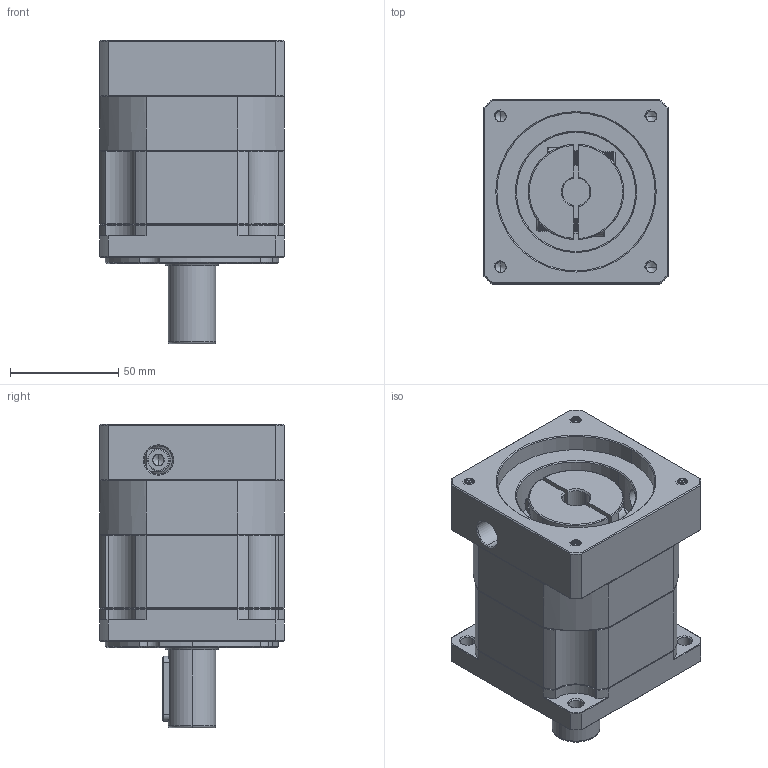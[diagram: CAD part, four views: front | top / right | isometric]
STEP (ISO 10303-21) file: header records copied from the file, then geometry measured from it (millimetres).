
FILE_DESCRIPTION (( 'STEP AP214' ), '1' );
FILE_NAME ('ZB90-D22-L1-12.7-73-69.5X69.5-M6.STEP', '2022-05-02T15:31:49', ( '' ), ( 'Microsoft' ), 'SwSTEP 2.0', 'SolidWorks 2016', '' );
FILE_SCHEMA (( 'AUTOMOTIVE_DESIGN' ));
Length unit declared in the file: millimetre
Products named in the file (1): ZB90-D22-L1-12.7-73-69.5X69.5-M6
Bounding box: 85 x 85 x 140 mm (x, y, z)
Volume: 609971.9 mm3; surface area: 86704.8 mm2
Topology: 4 solids, 5 shells, 1939 faces, 5064 edges, 3205 vertices
Faces by surface type: plane 882, cylinder 396, cone 335, bspline 299, torus 27
Entity records: 104653 total; most frequent: CARTESIAN_POINT 38398, ORIENTED_EDGE 10084, DIRECTION 8192, EDGE_CURVE 5042, VERTEX_POINT 3205, LINE 3102, VECTOR 3102, AXIS2_PLACEMENT_3D 2545
